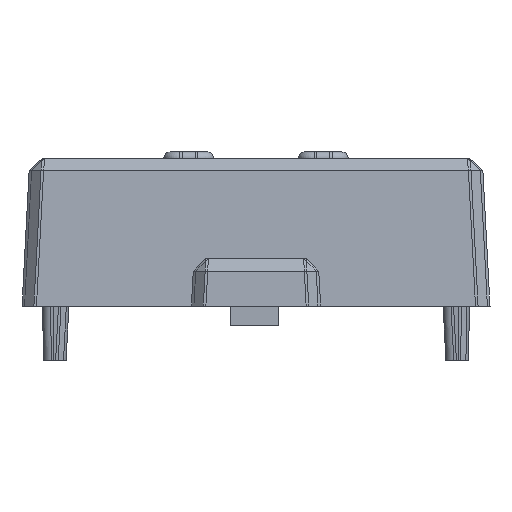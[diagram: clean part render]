
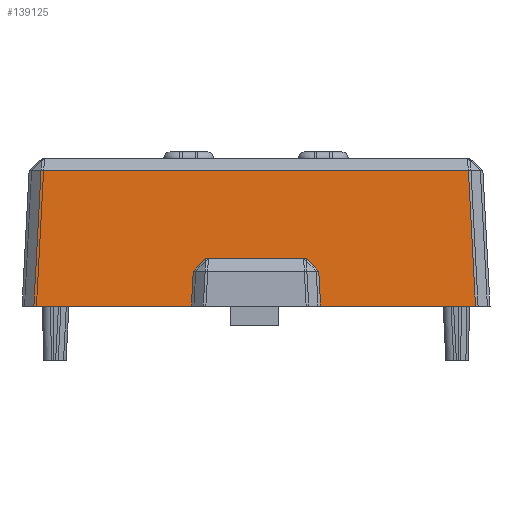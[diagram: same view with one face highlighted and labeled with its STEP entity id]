
A CAD part, left-side view. The second image highlights one B-rep face of the part: STEP entity #139125.
In plain terms, the highlighted planar face has unit normal (-0.999, 0, 0.052) as drawn and (0.999, 0.052, 0) by its records, which use the part's own axes.
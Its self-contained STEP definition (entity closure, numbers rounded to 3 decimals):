
#138360 = VERTEX_POINT('',#138361);
#138361 = CARTESIAN_POINT('',(37.,0.,-4.));
#138394 = VERTEX_POINT('',#138395);
#138395 = CARTESIAN_POINT('',(37.,0.,4.));
#138401 = EDGE_CURVE('',#138402,#138394,#138404,.T.);
#138402 = VERTEX_POINT('',#138403);
#138403 = CARTESIAN_POINT('',(37.,0.,13.949));
#138404 = LINE('',#138405,#138406);
#138405 = CARTESIAN_POINT('',(37.,0.,14.7));
#138406 = VECTOR('',#138407,1.);
#138407 = DIRECTION('',(0.,0.,-1.));
#138458 = VERTEX_POINT('',#138459);
#138459 = CARTESIAN_POINT('',(37.,0.,-13.947));
#138465 = EDGE_CURVE('',#138360,#138458,#138466,.T.);
#138466 = LINE('',#138467,#138468);
#138467 = CARTESIAN_POINT('',(37.,0.,14.7));
#138468 = VECTOR('',#138469,1.);
#138469 = DIRECTION('',(0.,0.,-1.));
#139125 = ADVANCED_FACE('',(#139126),#139190,.T.);
#139126 = FACE_BOUND('',#139127,.T.);
#139127 = EDGE_LOOP('',(#139128,#139129,#139137,#139145,#139151,#139152,
    #139160,#139168,#139176,#139184));
#139128 = ORIENTED_EDGE('',*,*,#138465,.T.);
#139129 = ORIENTED_EDGE('',*,*,#139130,.T.);
#139130 = EDGE_CURVE('',#138458,#139131,#139133,.T.);
#139131 = VERTEX_POINT('',#139132);
#139132 = CARTESIAN_POINT('',(36.55,8.589,
    -13.497));
#139133 = LINE('',#139134,#139135);
#139134 = CARTESIAN_POINT('',(36.922,1.493,
    -13.869));
#139135 = VECTOR('',#139136,1.);
#139136 = DIRECTION('',(-0.052,0.997,
    0.052));
#139137 = ORIENTED_EDGE('',*,*,#139138,.T.);
#139138 = EDGE_CURVE('',#139131,#139139,#139141,.T.);
#139139 = VERTEX_POINT('',#139140);
#139140 = CARTESIAN_POINT('',(36.55,8.589,
    13.499));
#139141 = LINE('',#139142,#139143);
#139142 = CARTESIAN_POINT('',(36.55,8.589,14.7));
#139143 = VECTOR('',#139144,1.);
#139144 = DIRECTION('',(0.,0.,1.));
#139145 = ORIENTED_EDGE('',*,*,#139146,.T.);
#139146 = EDGE_CURVE('',#139139,#138402,#139147,.T.);
#139147 = LINE('',#139148,#139149);
#139148 = CARTESIAN_POINT('',(37.002,-0.039,
    13.951));
#139149 = VECTOR('',#139150,1.);
#139150 = DIRECTION('',(0.052,-0.997,
    0.052));
#139151 = ORIENTED_EDGE('',*,*,#138401,.T.);
#139152 = ORIENTED_EDGE('',*,*,#139153,.T.);
#139153 = EDGE_CURVE('',#138394,#139154,#139156,.T.);
#139154 = VERTEX_POINT('',#139155);
#139155 = CARTESIAN_POINT('',(36.884,2.209,
    3.884));
#139156 = LINE('',#139157,#139158);
#139157 = CARTESIAN_POINT('',(37.029,-0.558,
    4.029));
#139158 = VECTOR('',#139159,1.);
#139159 = DIRECTION('',(-0.052,0.997,
    -0.052));
#139160 = ORIENTED_EDGE('',*,*,#139161,.T.);
#139161 = EDGE_CURVE('',#139154,#139162,#139164,.T.);
#139162 = VERTEX_POINT('',#139163);
#139163 = CARTESIAN_POINT('',(36.843,3.,3.093));
#139164 = LINE('',#139165,#139166);
#139165 = CARTESIAN_POINT('',(37.225,-4.298,
    10.39));
#139166 = VECTOR('',#139167,1.);
#139167 = DIRECTION('',(-0.037,0.707,
    -0.707));
#139168 = ORIENTED_EDGE('',*,*,#139169,.F.);
#139169 = EDGE_CURVE('',#139170,#139162,#139172,.T.);
#139170 = VERTEX_POINT('',#139171);
#139171 = CARTESIAN_POINT('',(36.843,3.,-3.093));
#139172 = LINE('',#139173,#139174);
#139173 = CARTESIAN_POINT('',(36.843,3.,14.7));
#139174 = VECTOR('',#139175,1.);
#139175 = DIRECTION('',(0.,0.,1.));
#139176 = ORIENTED_EDGE('',*,*,#139177,.T.);
#139177 = EDGE_CURVE('',#139170,#139178,#139180,.T.);
#139178 = VERTEX_POINT('',#139179);
#139179 = CARTESIAN_POINT('',(36.884,2.209,
    -3.884));
#139180 = LINE('',#139181,#139182);
#139181 = CARTESIAN_POINT('',(36.456,10.382,
    4.289));
#139182 = VECTOR('',#139183,1.);
#139183 = DIRECTION('',(0.037,-0.707,
    -0.707));
#139184 = ORIENTED_EDGE('',*,*,#139185,.T.);
#139185 = EDGE_CURVE('',#139178,#138360,#139186,.T.);
#139186 = LINE('',#139187,#139188);
#139187 = CARTESIAN_POINT('',(36.949,0.975,
    -3.949));
#139188 = VECTOR('',#139189,1.);
#139189 = DIRECTION('',(0.052,-0.997,
    -0.052));
#139190 = PLANE('',#139191);
#139191 = AXIS2_PLACEMENT_3D('',#139192,#139193,#139194);
#139192 = CARTESIAN_POINT('',(37.,0.,14.7));
#139193 = DIRECTION('',(0.999,0.052,0.));
#139194 = DIRECTION('',(-0.052,0.999,0.));
